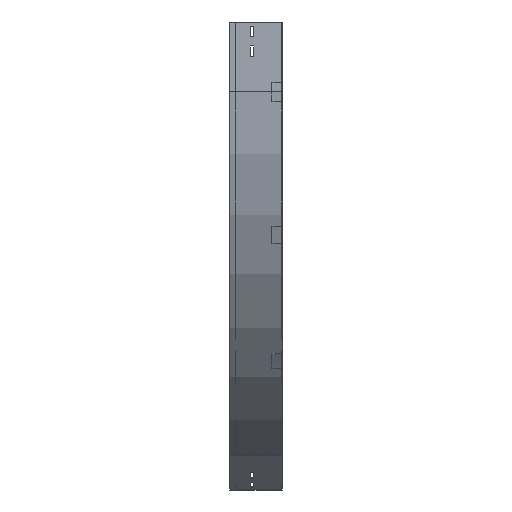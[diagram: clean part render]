
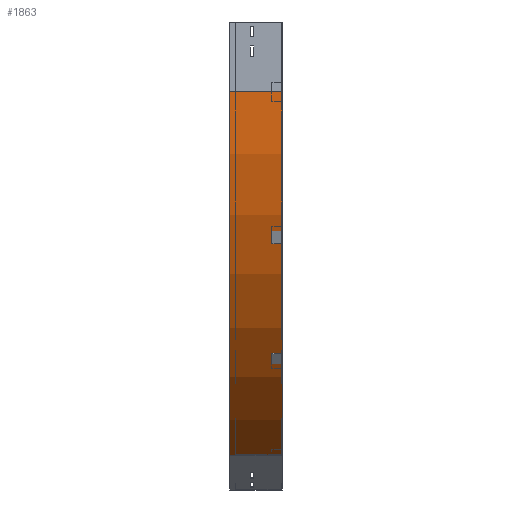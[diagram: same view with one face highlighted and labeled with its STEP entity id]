
A CAD part, left-side view. The second image highlights one B-rep face of the part: STEP entity #1863.
In plain terms, the highlighted cylindrical face has radius 900 mm (diameter 1800 mm), a partial arc.
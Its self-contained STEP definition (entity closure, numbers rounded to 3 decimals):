
#68 = EDGE_LOOP ( 'NONE', ( #204, #3779, #2707, #555 ) ) ;
#116 = AXIS2_PLACEMENT_3D ( 'NONE', #500, #1405, #3497 ) ;
#204 = ORIENTED_EDGE ( 'NONE', *, *, #2905, .F. ) ;
#257 = DIRECTION ( 'NONE',  ( 0., -1., 0. ) ) ;
#500 = CARTESIAN_POINT ( 'NONE',  ( 900., 112.5, -150. ) ) ;
#510 = DIRECTION ( 'NONE',  ( 0., -1., 0. ) ) ;
#553 = DIRECTION ( 'NONE',  ( 0., -1., 0. ) ) ;
#555 = ORIENTED_EDGE ( 'NONE', *, *, #1822, .T. ) ;
#816 = FACE_OUTER_BOUND ( 'NONE', #68, .T. ) ;
#859 = AXIS2_PLACEMENT_3D ( 'NONE', #2583, #257, #3827 ) ;
#871 = VECTOR ( 'NONE', #1158, 1000. ) ;
#896 = EDGE_CURVE ( 'NONE', #3317, #3134, #3113, .T. ) ;
#931 = AXIS2_PLACEMENT_3D ( 'NONE', #3195, #510, #1722 ) ;
#1115 = CARTESIAN_POINT ( 'NONE',  ( 0., 112.5, -150. ) ) ;
#1158 = DIRECTION ( 'NONE',  ( 0., -1., 0. ) ) ;
#1405 = DIRECTION ( 'NONE',  ( 0., -1., 0. ) ) ;
#1722 = DIRECTION ( 'NONE',  ( 0., 0., -1. ) ) ;
#1769 = LINE ( 'NONE', #3551, #871 ) ;
#1822 = EDGE_CURVE ( 'NONE', #3134, #2607, #2052, .T. ) ;
#1863 = ADVANCED_FACE ( 'NONE', ( #816 ), #2020, .T. ) ;
#1875 = CIRCLE ( 'NONE', #859, 900. ) ;
#1909 = VERTEX_POINT ( 'NONE', #2133 ) ;
#2020 = CYLINDRICAL_SURFACE ( 'NONE', #931, 900. ) ;
#2052 = LINE ( 'NONE', #3227, #3359 ) ;
#2133 = CARTESIAN_POINT ( 'NONE',  ( 0., 0., -150. ) ) ;
#2575 = CARTESIAN_POINT ( 'NONE',  ( 450., 0., -929.423 ) ) ;
#2583 = CARTESIAN_POINT ( 'NONE',  ( 900., 0., -150. ) ) ;
#2604 = EDGE_CURVE ( 'NONE', #3317, #1909, #1769, .T. ) ;
#2607 = VERTEX_POINT ( 'NONE', #2575 ) ;
#2707 = ORIENTED_EDGE ( 'NONE', *, *, #896, .T. ) ;
#2905 = EDGE_CURVE ( 'NONE', #1909, #2607, #1875, .T. ) ;
#3113 = CIRCLE ( 'NONE', #116, 900. ) ;
#3134 = VERTEX_POINT ( 'NONE', #3563 ) ;
#3195 = CARTESIAN_POINT ( 'NONE',  ( 900., 0., -150. ) ) ;
#3227 = CARTESIAN_POINT ( 'NONE',  ( 450., 0., -929.423 ) ) ;
#3317 = VERTEX_POINT ( 'NONE', #1115 ) ;
#3359 = VECTOR ( 'NONE', #553, 1000. ) ;
#3497 = DIRECTION ( 'NONE',  ( -1., 0., 0. ) ) ;
#3551 = CARTESIAN_POINT ( 'NONE',  ( 0., 0., -150. ) ) ;
#3563 = CARTESIAN_POINT ( 'NONE',  ( 450., 112.5, -929.423 ) ) ;
#3779 = ORIENTED_EDGE ( 'NONE', *, *, #2604, .F. ) ;
#3827 = DIRECTION ( 'NONE',  ( -1., 0., 0. ) ) ;
